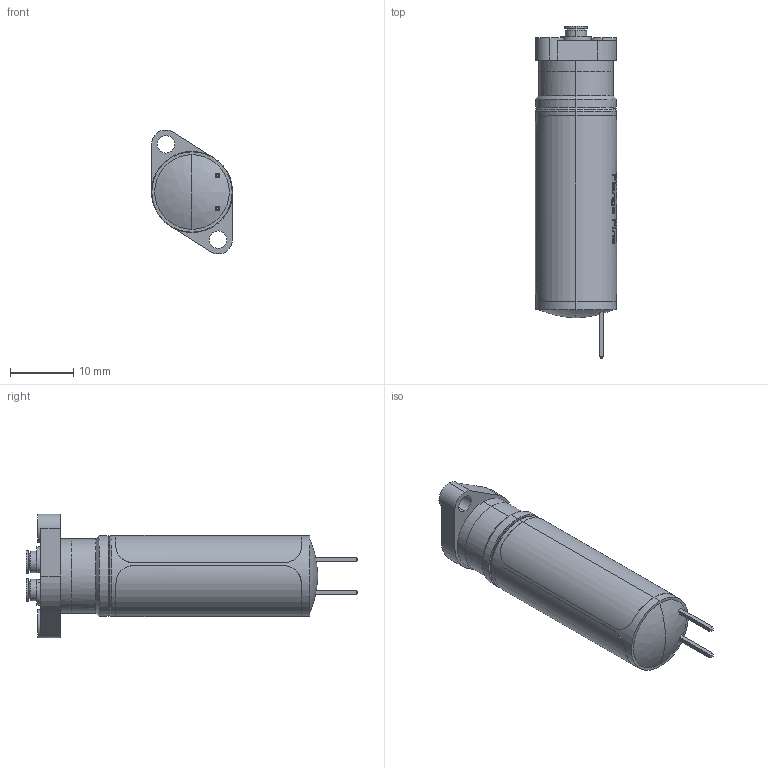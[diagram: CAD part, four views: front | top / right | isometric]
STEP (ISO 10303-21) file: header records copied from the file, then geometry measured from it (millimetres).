
FILE_DESCRIPTION (( 'STEP AP214' ), '1' );
FILE_NAME ('Lee-LFV_Series_Flange_Pins-CAD_Model_A1 A1.step', '2021-03-11T20:57:16', ( '' ), ( '' ), 'SwSTEP 2.0', 'SolidWorks 2019', '' );
FILE_SCHEMA (( 'AUTOMOTIVE_DESIGN' ));
Length unit declared in the file: inch
Products named in the file (1): Lee-LFV_Series_Flange_Pins-CAD_Model_A1 A1
Bounding box: 12.78 x 52.32 x 19.52 mm (x, y, z)
Volume: 5534.2 mm3; surface area: 2358.8 mm2
Topology: 1 solids, 1 shells, 570 faces, 1501 edges, 993 vertices
Faces by surface type: bspline 261, plane 198, cylinder 101, cone 8, torus 2
Entity records: 43865 total; most frequent: CARTESIAN_POINT 24486, ORIENTED_EDGE 2998, DIRECTION 1553, EDGE_CURVE 1499, VERTEX_POINT 993, B_SPLINE_CURVE_WITH_KNOTS 836, EDGE_LOOP 636, AXIS2_PLACEMENT_3D 580
